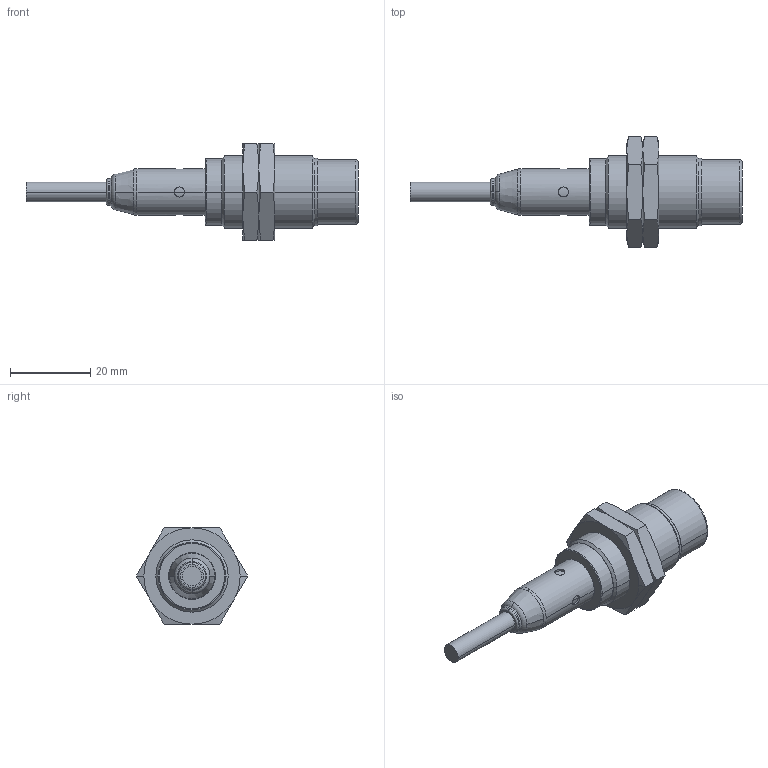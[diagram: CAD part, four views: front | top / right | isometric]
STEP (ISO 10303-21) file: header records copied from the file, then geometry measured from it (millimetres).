
FILE_DESCRIPTION( ( '' ), '1' );
FILE_NAME( '//partserver001.servicenet/client_exchange/iodir/jobs/output/wkb15158198_no6/STEP/igt208_2_03.stp', '2009-03-19T06:17:27', ( '' ), ( '' ), ' ', ' ', ' ' );
FILE_SCHEMA( ( 'CONFIG_CONTROL_DESIGN' ) );
Length unit declared in the file: millimetre
Products named in the file (3): 1; 2; 3
Bounding box: 82.7 x 27.71 x 24 mm (x, y, z)
Volume: 13793.1 mm3; surface area: 5713.3 mm2
Topology: 3 solids, 3 shells, 117 faces, 263 edges, 159 vertices
Faces by surface type: cone 48, cylinder 32, plane 23, torus 14
Entity records: 3598 total; most frequent: CARTESIAN_POINT 918, DIRECTION 572, ORIENTED_EDGE 526, EDGE_CURVE 263, AXIS2_PLACEMENT_3D 253, VERTEX_POINT 159, CIRCLE 133, EDGE_LOOP 128
